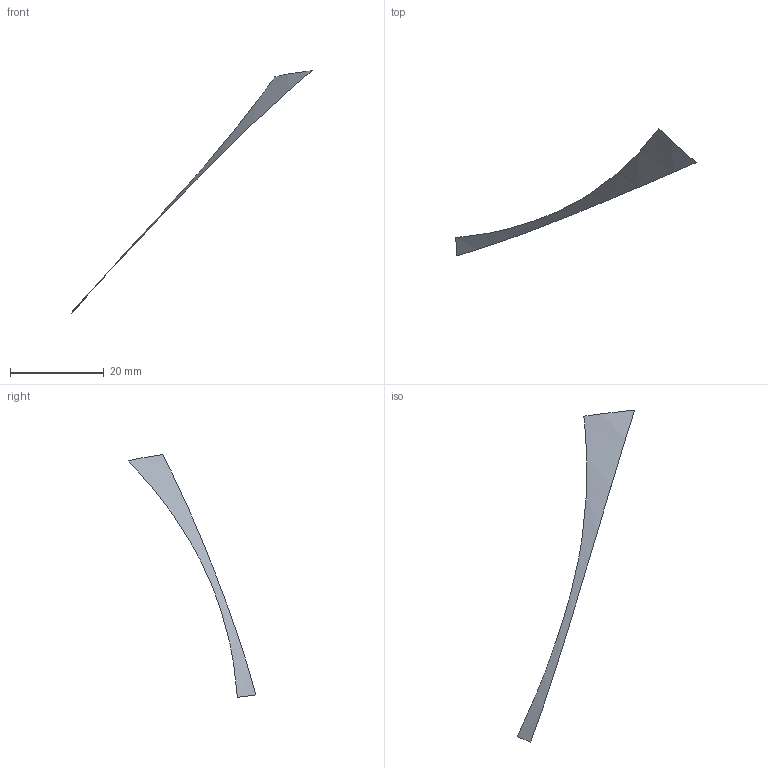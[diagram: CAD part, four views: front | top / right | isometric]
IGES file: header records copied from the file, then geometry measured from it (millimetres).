
Start section: START RECORD GO HERE
Global section: file name: s4.igs; native system: IBM CATIA IGES - CATIA SOLUTIONS V4RELEASE 1.9 REFRESH 01; preprocessor: CATIA SOLUTIONS V4RELEASE 1.9 REFRESH 01; author: cky; date: 990510.133752; units: millimetre
Bounding box: 51.29 x 27.21 x 51.84 mm (x, y, z)
Surface area: 277.9 mm2 (no closed solid volume)
Topology: 0 solids, 0 shells, 1 faces, 31 edges, 31 vertices
Faces by surface type: bspline 1
